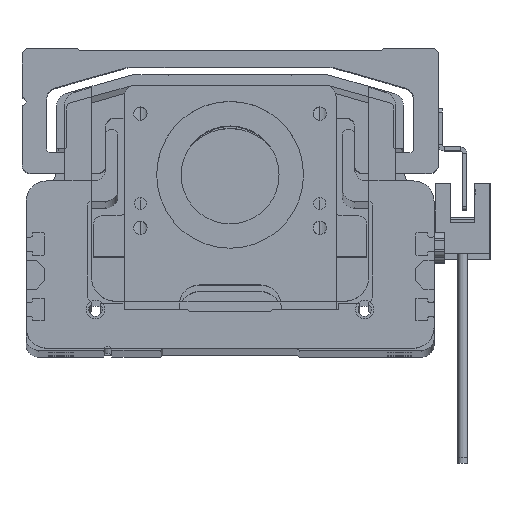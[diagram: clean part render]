
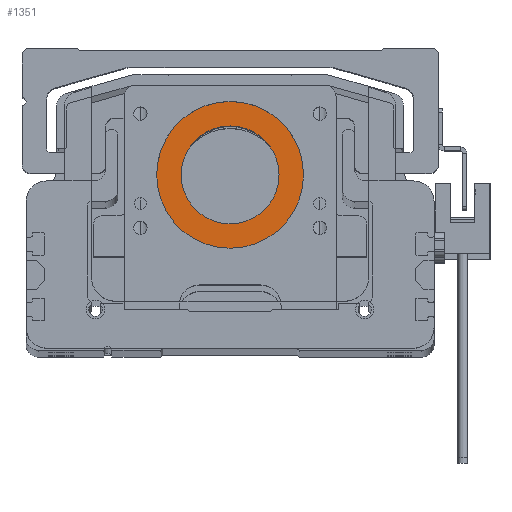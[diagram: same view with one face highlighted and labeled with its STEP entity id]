
A CAD part, top view. The second image highlights one B-rep face of the part: STEP entity #1351.
In plain terms, the highlighted planar face has unit normal (0, 0, 1).
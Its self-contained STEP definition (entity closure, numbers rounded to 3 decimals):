
#287 = AXIS2_PLACEMENT_3D ( 'NONE', #20496, #20462, #20387 ) ;
#1351 = ADVANCED_FACE ( 'NONE', ( #19620, #18826 ), #5435, .T. ) ;
#2009 = VERTEX_POINT ( 'NONE', #12896 ) ;
#2793 = VERTEX_POINT ( 'NONE', #9084 ) ;
#3439 = AXIS2_PLACEMENT_3D ( 'NONE', #10576, #10431, #9957 ) ;
#3843 = CARTESIAN_POINT ( 'NONE',  ( 0., 33., 2.5 ) ) ;
#4584 = CIRCLE ( 'NONE', #3439, 18. ) ;
#4744 = DIRECTION ( 'NONE',  ( 1., 0., 0. ) ) ;
#5435 = PLANE ( 'NONE',  #26878 ) ;
#6896 = CIRCLE ( 'NONE', #16413, 18. ) ;
#7688 = EDGE_CURVE ( 'NONE', #2009, #16635, #4584, .T. ) ;
#9084 = CARTESIAN_POINT ( 'NONE',  ( -12., 33., 2.5 ) ) ;
#9957 = DIRECTION ( 'NONE',  ( 1., 0., 0. ) ) ;
#10011 = EDGE_LOOP ( 'NONE', ( #12604, #13628 ) ) ;
#10431 = DIRECTION ( 'NONE',  ( 0., 0., 1. ) ) ;
#10576 = CARTESIAN_POINT ( 'NONE',  ( 0., 33., 2.5 ) ) ;
#11175 = CARTESIAN_POINT ( 'NONE',  ( 12., 33., 2.5 ) ) ;
#12407 = EDGE_LOOP ( 'NONE', ( #23587, #27138 ) ) ;
#12604 = ORIENTED_EDGE ( 'NONE', *, *, #7688, .T. ) ;
#12698 = DIRECTION ( 'NONE',  ( 0., 0., 1. ) ) ;
#12896 = CARTESIAN_POINT ( 'NONE',  ( 18., 33., 2.5 ) ) ;
#13399 = EDGE_CURVE ( 'NONE', #2793, #31118, #16939, .T. ) ;
#13628 = ORIENTED_EDGE ( 'NONE', *, *, #31327, .T. ) ;
#13709 = CIRCLE ( 'NONE', #18422, 12. ) ;
#14519 = EDGE_CURVE ( 'NONE', #31118, #2793, #13709, .T. ) ;
#15921 = DIRECTION ( 'NONE',  ( 0., 0., 1. ) ) ;
#16372 = DIRECTION ( 'NONE',  ( 1., 0., 0. ) ) ;
#16377 = CARTESIAN_POINT ( 'NONE',  ( 0., 33., 2.5 ) ) ;
#16413 = AXIS2_PLACEMENT_3D ( 'NONE', #27692, #12698, #30114 ) ;
#16635 = VERTEX_POINT ( 'NONE', #19747 ) ;
#16939 = CIRCLE ( 'NONE', #287, 12. ) ;
#18422 = AXIS2_PLACEMENT_3D ( 'NONE', #16377, #15921, #16372 ) ;
#18826 = FACE_BOUND ( 'NONE', #12407, .T. ) ;
#19620 = FACE_OUTER_BOUND ( 'NONE', #10011, .T. ) ;
#19747 = CARTESIAN_POINT ( 'NONE',  ( -18., 33., 2.5 ) ) ;
#20387 = DIRECTION ( 'NONE',  ( 1., 0., 0. ) ) ;
#20462 = DIRECTION ( 'NONE',  ( 0., 0., 1. ) ) ;
#20496 = CARTESIAN_POINT ( 'NONE',  ( 0., 33., 2.5 ) ) ;
#23587 = ORIENTED_EDGE ( 'NONE', *, *, #14519, .F. ) ;
#26878 = AXIS2_PLACEMENT_3D ( 'NONE', #3843, #31965, #4744 ) ;
#27138 = ORIENTED_EDGE ( 'NONE', *, *, #13399, .F. ) ;
#27692 = CARTESIAN_POINT ( 'NONE',  ( 0., 33., 2.5 ) ) ;
#30114 = DIRECTION ( 'NONE',  ( 1., 0., 0. ) ) ;
#31118 = VERTEX_POINT ( 'NONE', #11175 ) ;
#31327 = EDGE_CURVE ( 'NONE', #16635, #2009, #6896, .T. ) ;
#31965 = DIRECTION ( 'NONE',  ( 0., 0., 1. ) ) ;
